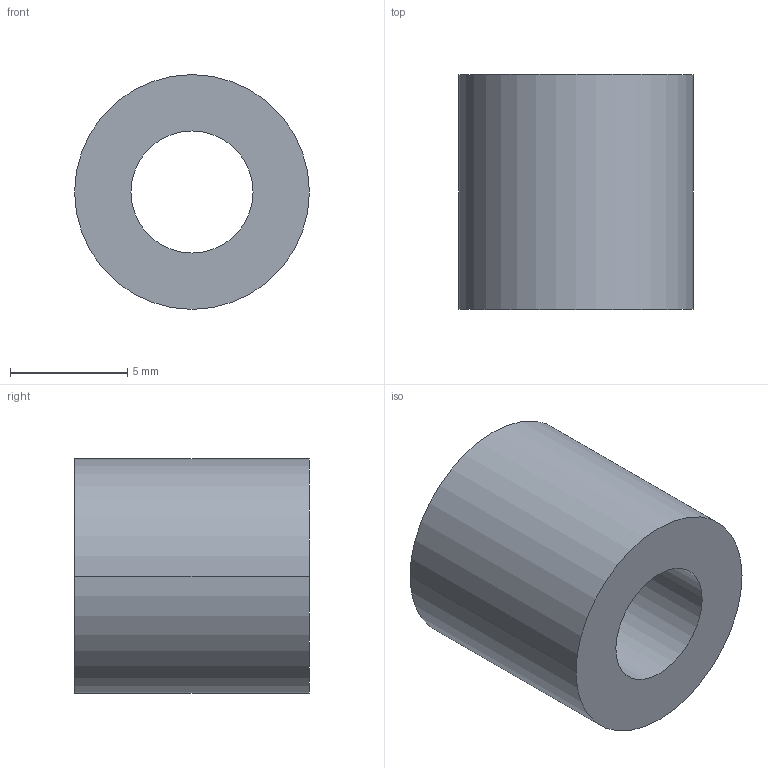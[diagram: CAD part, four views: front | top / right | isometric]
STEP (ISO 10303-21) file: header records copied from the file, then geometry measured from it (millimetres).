
FILE_DESCRIPTION (( 'STEP AP203' ), '1' );
FILE_NAME ('30800.WPP10D5.2.step', '2019-01-23T22:22:35', ( '' ), ( '' ), 'SwSTEP 2.0', 'SolidWorks 2017', '' );
FILE_SCHEMA (( 'CONFIG_CONTROL_DESIGN' ));
Length unit declared in the file: millimetre
Products named in the file (1): 30800.WPP10D5.2
Bounding box: 10 x 10 x 10 mm (x, y, z)
Volume: 564.1 mm3; surface area: 582.6 mm2
Topology: 1 solids, 1 shells, 8 faces, 16 edges, 10 vertices
Faces by surface type: cylinder 4, torus 2, plane 2
Entity records: 297 total; most frequent: DIRECTION 46, CARTESIAN_POINT 35, ORIENTED_EDGE 32, AXIS2_PLACEMENT_3D 21, EDGE_CURVE 16, CIRCLE 12, EDGE_LOOP 10, VERTEX_POINT 10
